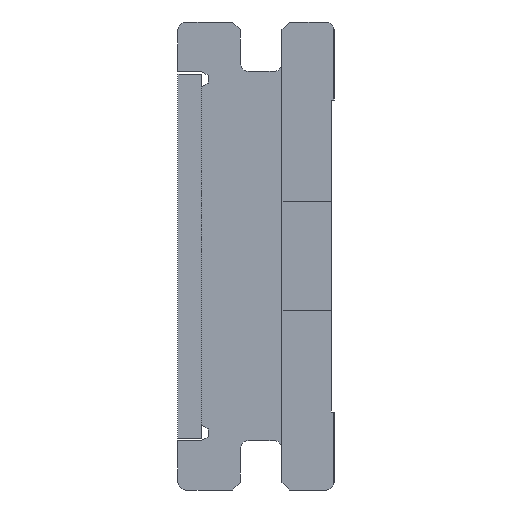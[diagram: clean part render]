
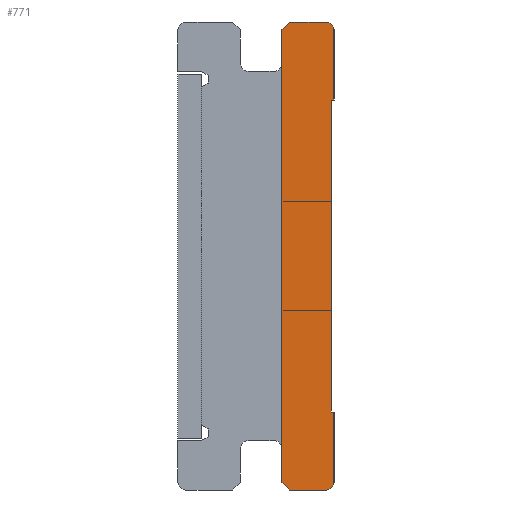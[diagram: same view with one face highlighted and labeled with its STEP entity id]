
A CAD part, left-side view. The second image highlights one B-rep face of the part: STEP entity #771.
In plain terms, the highlighted planar face has unit normal (-1, 0, 0).
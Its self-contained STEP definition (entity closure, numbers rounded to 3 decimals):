
#25 = PLANE ( 'NONE',  #916 ) ;
#38 = CARTESIAN_POINT ( 'NONE',  ( 0., 1.7, 0. ) ) ;
#81 = CARTESIAN_POINT ( 'NONE',  ( 0., 1.7, -18. ) ) ;
#101 = EDGE_CURVE ( 'NONE', #2348, #881, #352, .T. ) ;
#106 = ORIENTED_EDGE ( 'NONE', *, *, #2457, .F. ) ;
#128 = ORIENTED_EDGE ( 'NONE', *, *, #813, .F. ) ;
#138 = VERTEX_POINT ( 'NONE', #2102 ) ;
#198 = ORIENTED_EDGE ( 'NONE', *, *, #101, .F. ) ;
#199 = VECTOR ( 'NONE', #792, 1000. ) ;
#206 = EDGE_CURVE ( 'NONE', #2170, #1552, #388, .T. ) ;
#275 = DIRECTION ( 'NONE',  ( 0., -1., 0. ) ) ;
#286 = ORIENTED_EDGE ( 'NONE', *, *, #1764, .F. ) ;
#313 = EDGE_CURVE ( 'NONE', #1698, #1579, #1419, .T. ) ;
#352 = LINE ( 'NONE', #778, #1980 ) ;
#358 = LINE ( 'NONE', #2078, #1624 ) ;
#369 = CARTESIAN_POINT ( 'NONE',  ( 0., 0., -3. ) ) ;
#381 = CARTESIAN_POINT ( 'NONE',  ( 0., 0.1, -3. ) ) ;
#388 = LINE ( 'NONE', #1157, #573 ) ;
#397 = VECTOR ( 'NONE', #998, 1000. ) ;
#405 = CARTESIAN_POINT ( 'NONE',  ( 0., 0., -0.3 ) ) ;
#448 = ORIENTED_EDGE ( 'NONE', *, *, #1680, .F. ) ;
#496 = CARTESIAN_POINT ( 'NONE',  ( 0., 0.1, -15. ) ) ;
#508 = VERTEX_POINT ( 'NONE', #648 ) ;
#573 = VECTOR ( 'NONE', #1908, 1000. ) ;
#621 = LINE ( 'NONE', #1388, #2384 ) ;
#648 = CARTESIAN_POINT ( 'NONE',  ( 0., 0.3, 0. ) ) ;
#659 = VECTOR ( 'NONE', #798, 1000. ) ;
#664 = VECTOR ( 'NONE', #1162, 1000. ) ;
#771 = ADVANCED_FACE ( 'NONE', ( #788 ), #25, .F. ) ;
#777 = LINE ( 'NONE', #1544, #1370 ) ;
#778 = CARTESIAN_POINT ( 'NONE',  ( 0., 0.1, -3. ) ) ;
#788 = FACE_OUTER_BOUND ( 'NONE', #1815, .T. ) ;
#792 = DIRECTION ( 'NONE',  ( 0., -1., 0. ) ) ;
#798 = DIRECTION ( 'NONE',  ( 0., -0.707, 0.707 ) ) ;
#813 = EDGE_CURVE ( 'NONE', #1579, #2170, #621, .T. ) ;
#817 = ORIENTED_EDGE ( 'NONE', *, *, #927, .F. ) ;
#824 = ORIENTED_EDGE ( 'NONE', *, *, #1664, .F. ) ;
#844 = DIRECTION ( 'NONE',  ( 1., 0., 0. ) ) ;
#863 = CARTESIAN_POINT ( 'NONE',  ( 0., 0.3, -18. ) ) ;
#881 = VERTEX_POINT ( 'NONE', #496 ) ;
#916 = AXIS2_PLACEMENT_3D ( 'NONE', #2299, #844, #1770 ) ;
#927 = EDGE_CURVE ( 'NONE', #1758, #1442, #358, .T. ) ;
#931 = DIRECTION ( 'NONE',  ( 0., 0., -1. ) ) ;
#939 = DIRECTION ( 'NONE',  ( 0., 0., -1. ) ) ;
#982 = DIRECTION ( 'NONE',  ( 0., 0., -1. ) ) ;
#990 = LINE ( 'NONE', #38, #659 ) ;
#998 = DIRECTION ( 'NONE',  ( 0., 1., 0. ) ) ;
#1004 = ORIENTED_EDGE ( 'NONE', *, *, #2350, .F. ) ;
#1016 = ORIENTED_EDGE ( 'NONE', *, *, #2043, .F. ) ;
#1059 = DIRECTION ( 'NONE',  ( 0., 0.707, 0.707 ) ) ;
#1157 = CARTESIAN_POINT ( 'NONE',  ( 0., 2., -17.7 ) ) ;
#1162 = DIRECTION ( 'NONE',  ( 0., 1., 0. ) ) ;
#1201 = CARTESIAN_POINT ( 'NONE',  ( 0., 0., -17.7 ) ) ;
#1301 = CARTESIAN_POINT ( 'NONE',  ( 0., 0.3, -17.7 ) ) ;
#1306 = ORIENTED_EDGE ( 'NONE', *, *, #206, .F. ) ;
#1339 = LINE ( 'NONE', #1530, #199 ) ;
#1347 = LINE ( 'NONE', #369, #664 ) ;
#1370 = VECTOR ( 'NONE', #982, 1000. ) ;
#1388 = CARTESIAN_POINT ( 'NONE',  ( 0., 1.7, -18. ) ) ;
#1419 = LINE ( 'NONE', #863, #397 ) ;
#1442 = VERTEX_POINT ( 'NONE', #1557 ) ;
#1506 = ORIENTED_EDGE ( 'NONE', *, *, #313, .F. ) ;
#1530 = CARTESIAN_POINT ( 'NONE',  ( 0., 0.3, 0. ) ) ;
#1544 = CARTESIAN_POINT ( 'NONE',  ( 0., 0., -15. ) ) ;
#1552 = VERTEX_POINT ( 'NONE', #2345 ) ;
#1557 = CARTESIAN_POINT ( 'NONE',  ( 0., 0., -3. ) ) ;
#1579 = VERTEX_POINT ( 'NONE', #81 ) ;
#1581 = CARTESIAN_POINT ( 'NONE',  ( 0., 0.3, -0.3 ) ) ;
#1613 = CARTESIAN_POINT ( 'NONE',  ( 0., 2., -17.7 ) ) ;
#1624 = VECTOR ( 'NONE', #939, 1000. ) ;
#1664 = EDGE_CURVE ( 'NONE', #508, #1758, #1744, .T. ) ;
#1680 = EDGE_CURVE ( 'NONE', #1552, #138, #990, .T. ) ;
#1698 = VERTEX_POINT ( 'NONE', #2296 ) ;
#1714 = DIRECTION ( 'NONE',  ( 1., 0., 0. ) ) ;
#1744 = CIRCLE ( 'NONE', #1988, 0.3 ) ;
#1748 = DIRECTION ( 'NONE',  ( 0., 0., -1. ) ) ;
#1758 = VERTEX_POINT ( 'NONE', #405 ) ;
#1764 = EDGE_CURVE ( 'NONE', #881, #2071, #2180, .T. ) ;
#1770 = DIRECTION ( 'NONE',  ( 0., 1., 0. ) ) ;
#1815 = EDGE_LOOP ( 'NONE', ( #448, #1306, #128, #1506, #106, #2308, #286, #198, #1004, #817, #824, #1016 ) ) ;
#1883 = DIRECTION ( 'NONE',  ( 1., 0., 0. ) ) ;
#1908 = DIRECTION ( 'NONE',  ( 0., 0., 1. ) ) ;
#1977 = EDGE_CURVE ( 'NONE', #2071, #2295, #777, .T. ) ;
#1978 = CARTESIAN_POINT ( 'NONE',  ( 0., 0., -15. ) ) ;
#1980 = VECTOR ( 'NONE', #1748, 1000. ) ;
#1988 = AXIS2_PLACEMENT_3D ( 'NONE', #1581, #1714, #2463 ) ;
#2003 = CARTESIAN_POINT ( 'NONE',  ( 0., 0., -15. ) ) ;
#2043 = EDGE_CURVE ( 'NONE', #138, #508, #1339, .T. ) ;
#2071 = VERTEX_POINT ( 'NONE', #1978 ) ;
#2078 = CARTESIAN_POINT ( 'NONE',  ( 0., 0., -0.3 ) ) ;
#2102 = CARTESIAN_POINT ( 'NONE',  ( 0., 1.7, 0. ) ) ;
#2170 = VERTEX_POINT ( 'NONE', #1613 ) ;
#2180 = LINE ( 'NONE', #2003, #2326 ) ;
#2219 = AXIS2_PLACEMENT_3D ( 'NONE', #1301, #1883, #931 ) ;
#2295 = VERTEX_POINT ( 'NONE', #1201 ) ;
#2296 = CARTESIAN_POINT ( 'NONE',  ( 0., 0.3, -18. ) ) ;
#2299 = CARTESIAN_POINT ( 'NONE',  ( 0., 5.1, -15.8 ) ) ;
#2308 = ORIENTED_EDGE ( 'NONE', *, *, #1977, .F. ) ;
#2326 = VECTOR ( 'NONE', #275, 1000. ) ;
#2345 = CARTESIAN_POINT ( 'NONE',  ( 0., 2., -0.3 ) ) ;
#2348 = VERTEX_POINT ( 'NONE', #381 ) ;
#2350 = EDGE_CURVE ( 'NONE', #1442, #2348, #1347, .T. ) ;
#2384 = VECTOR ( 'NONE', #1059, 1000. ) ;
#2444 = CIRCLE ( 'NONE', #2219, 0.3 ) ;
#2457 = EDGE_CURVE ( 'NONE', #2295, #1698, #2444, .T. ) ;
#2463 = DIRECTION ( 'NONE',  ( 0., 0., 1. ) ) ;
